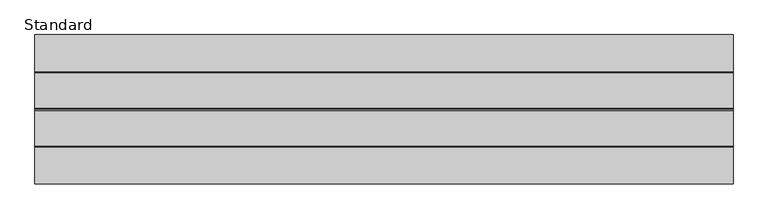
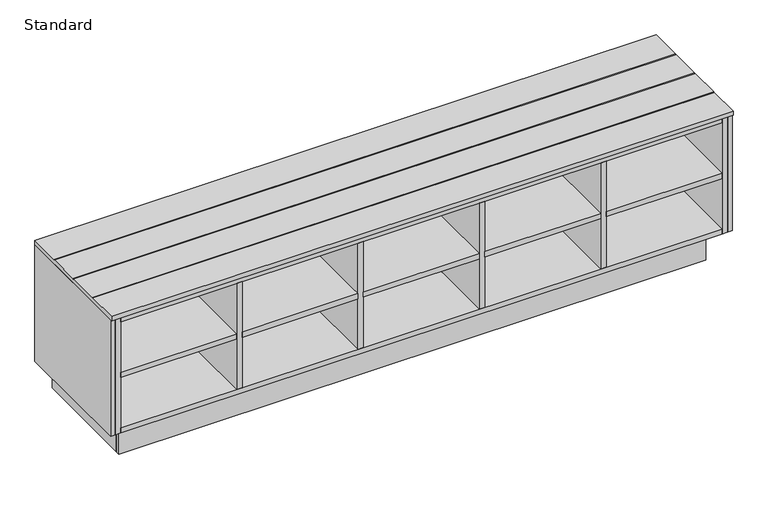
"""IFC4 building model written with IfcOpenShell, lengths in millimetres: furniture geometry, X_Bench-Wall-Duracube-Shoe Box : Standard."""

from ifc_helpers import new_model, si_unit, frame, origin, origin_with_axes, place, context, project, spatial, polyline, outline, extrude, source, transform, mapped, element, save


def standard_1e83d22c(model_context):
    return source(origin(), model_context, "Body", "SweptSolid", [
        extrude(outline(polyline([(-792.2996736, -407.5), (881.7003264, -407.5), (881.7003264, -729.5), (865.7003264, -729.5), (865.7003264, -423.5), (-776.2996736, -423.5), (-776.2996736, -729.5), (-792.2996736, -729.5), (-792.2996736, -407.5)])), origin_with_axes(), (0.0, 0.0, 1.0), 100.0),
        extrude(outline(polyline([(881.7003264, -729.5), (881.7003264, -407.5), (894.7003264, -407.5), (894.7003264, -729.5), (881.7003264, -729.5)])), origin_with_axes(), (0.0, 0.0, 1.0), 100.0),
        extrude(outline(polyline([(-792.2996736, -729.5), (-805.2996736, -729.5), (-805.2996736, -407.5), (-792.2996736, -407.5), (-792.2996736, -729.5)])), origin_with_axes(), (0.0, 0.0, 1.0), 100.0),
        extrude(outline(polyline([(-407.5, 457.0), (-792.5, 457.0), (-792.5, 470.0), (-698.5, 470.0), (-696.5, 468.0), (-694.5, 470.0), (-602.5, 470.0), (-600.5, 468.0), (-598.5, 470.0), (-506.5, 470.0), (-504.5, 468.0), (-502.5, 470.0), (-407.5, 470.0), (-407.5, 457.0)])), frame((-855.2996736, 0.0, 0.0), z_axis=(1.0, 0.0, 0.0), x_axis=(0.0, 1.0, 0.0)), (0.0, 0.0, 1.0), 1800.0),
        extrude(outline(polyline([(915.7003264, -423.5), (915.7003264, -787.5), (580.1003264, -787.5), (580.1003264, -423.5), (915.7003264, -423.5)])), frame((0.0, 0.0, 270.5), z_axis=(0.0, 0.0, 1.0), x_axis=(1.0, 0.0, 0.0)), (0.0, 0.0, 1.0), 16.0),
        extrude(outline(polyline([(564.1003264, -423.5), (564.1003264, -787.5), (228.5003264, -787.5), (228.5003264, -423.5), (564.1003264, -423.5)])), frame((0.0, 0.0, 270.5), z_axis=(0.0, 0.0, 1.0), x_axis=(1.0, 0.0, 0.0)), (0.0, 0.0, 1.0), 16.0),
        extrude(outline(polyline([(212.5003264, -423.5), (212.5003264, -787.5), (-123.0996736, -787.5), (-123.0996736, -423.5), (212.5003264, -423.5)])), frame((0.0, 0.0, 270.5), z_axis=(0.0, 0.0, 1.0), x_axis=(1.0, 0.0, 0.0)), (0.0, 0.0, 1.0), 16.0),
        extrude(outline(polyline([(-139.0996736, -423.5), (-139.0996736, -787.5), (-474.6996736, -787.5), (-474.6996736, -423.5), (-139.0996736, -423.5)])), frame((0.0, 0.0, 270.5), z_axis=(0.0, 0.0, 1.0), x_axis=(1.0, 0.0, 0.0)), (0.0, 0.0, 1.0), 16.0),
        extrude(outline(polyline([(580.1003264, -423.5), (580.1003264, -787.5), (564.1003264, -787.5), (564.1003264, -423.5), (580.1003264, -423.5)])), frame((0.0, 0.0, 116.0), z_axis=(0.0, 0.0, 1.0), x_axis=(1.0, 0.0, 0.0)), (0.0, 0.0, 1.0), 325.0),
        extrude(outline(polyline([(228.5003264, -423.5), (228.5003264, -787.5), (212.5003264, -787.5), (212.5003264, -423.5), (228.5003264, -423.5)])), frame((0.0, 0.0, 116.0), z_axis=(0.0, 0.0, 1.0), x_axis=(1.0, 0.0, 0.0)), (0.0, 0.0, 1.0), 325.0),
        extrude(outline(polyline([(-123.0996736, -423.5), (-123.0996736, -787.5), (-139.0996736, -787.5), (-139.0996736, -423.5), (-123.0996736, -423.5)])), frame((0.0, 0.0, 116.0), z_axis=(0.0, 0.0, 1.0), x_axis=(1.0, 0.0, 0.0)), (0.0, 0.0, 1.0), 325.0),
        extrude(outline(polyline([(-474.6996736, -423.5), (-474.6996736, -787.5), (-490.6996736, -787.5), (-490.6996736, -423.5), (-474.6996736, -423.5)])), frame((0.0, 0.0, 116.0), z_axis=(0.0, 0.0, 1.0), x_axis=(1.0, 0.0, 0.0)), (0.0, 0.0, 1.0), 325.0),
        extrude(outline(polyline([(931.7003264, -423.5), (931.7003264, -787.5), (915.7003264, -787.5), (915.7003264, -423.5), (931.7003264, -423.5)])), frame((0.0, 0.0, 100.0), z_axis=(0.0, 0.0, 1.0), x_axis=(1.0, 0.0, 0.0)), (0.0, 0.0, 1.0), 357.0),
        extrude(outline(polyline([(-826.2996736, -423.5), (-826.2996736, -787.5), (-842.2996736, -787.5), (-842.2996736, -423.5), (-826.2996736, -423.5)])), frame((0.0, 0.0, 100.0), z_axis=(0.0, 0.0, 1.0), x_axis=(1.0, 0.0, 0.0)), (0.0, 0.0, 1.0), 357.0),
        extrude(outline(polyline([(-490.6996736, -423.5), (-490.6996736, -787.5), (-826.2996736, -787.5), (-826.2996736, -423.5), (-490.6996736, -423.5)])), frame((0.0, 0.0, 270.5), z_axis=(0.0, 0.0, 1.0), x_axis=(1.0, 0.0, 0.0)), (0.0, 0.0, 1.0), 16.0),
        extrude(outline(polyline([(915.7003264, -423.5), (915.7003264, -787.5), (-826.2996736, -787.5), (-826.2996736, -423.5), (915.7003264, -423.5)])), frame((0.0, 0.0, 441.0), z_axis=(0.0, 0.0, 1.0), x_axis=(1.0, 0.0, 0.0)), (0.0, 0.0, 1.0), 16.0),
        extrude(outline(polyline([(915.7003264, -423.5), (915.7003264, -787.5), (-826.2996736, -787.5), (-826.2996736, -423.5), (915.7003264, -423.5)])), frame((0.0, 0.0, 100.0), z_axis=(0.0, 0.0, 1.0), x_axis=(1.0, 0.0, 0.0)), (0.0, 0.0, 1.0), 16.0),
        extrude(outline(polyline([(931.7003264, -407.5), (944.7003264, -407.5), (944.7003264, -787.5), (931.7003264, -787.5), (931.7003264, -407.5)])), frame((0.0, 0.0, 100.0), z_axis=(0.0, 0.0, 1.0), x_axis=(1.0, 0.0, 0.0)), (0.0, 0.0, 1.0), 357.0),
        extrude(outline(polyline([(-855.2996736, -407.5), (-842.2996736, -407.5), (-842.2996736, -787.5), (-855.2996736, -787.5), (-855.2996736, -407.5)])), frame((0.0, 0.0, 100.0), z_axis=(0.0, 0.0, 1.0), x_axis=(1.0, 0.0, 0.0)), (0.0, 0.0, 1.0), 357.0),
        extrude(outline(polyline([(931.7003264, -407.5), (931.7003264, -423.5), (-842.2996736, -423.5), (-842.2996736, -407.5), (931.7003264, -407.5)])), frame((0.0, 0.0, 100.0), z_axis=(0.0, 0.0, 1.0), x_axis=(1.0, 0.0, 0.0)), (0.0, 0.0, 1.0), 357.0),
        extrude(outline(polyline([(865.7003264, -713.5), (865.7003264, -729.5), (-776.2996736, -729.5), (-776.2996736, -713.5), (865.7003264, -713.5)])), origin_with_axes(), (0.0, 0.0, 1.0), 100.0),
        extrude(outline(polyline([(894.7003264, -729.5), (894.7003264, -742.5), (-805.2996736, -742.5), (-805.2996736, -729.5), (894.7003264, -729.5)])), origin_with_axes(), (0.0, 0.0, 1.0), 100.0),
    ])


if __name__ == "__main__":
    model = new_model("IFC4")
    model_context = context("Model", 3, world=origin())
    ifc_project = project(units=[si_unit("LENGTHUNIT", "METRE", prefix="MILLI")], contexts=[model_context])
    site = spatial("IfcSite", under=ifc_project)
    building = spatial("IfcBuilding", under=site)
    placement = place(None, origin())
    standard_shape = standard_1e83d22c(model_context)
    element("IfcFurniture", 1, ObjectType="X_Bench-Wall-Duracube-Shoe Box : Standard", at=placement, inside=building, context=model_context, shape_type="MappedRepresentation", body=[
        mapped(standard_shape, transform((0.0, 0.0, 0.0), x_axis=(1.0, 0.0, 0.0), y_axis=(0.0, 1.0, 0.0), z_axis=(0.0, 0.0, 1.0))),
    ])
    save(model, "model.ifc")
